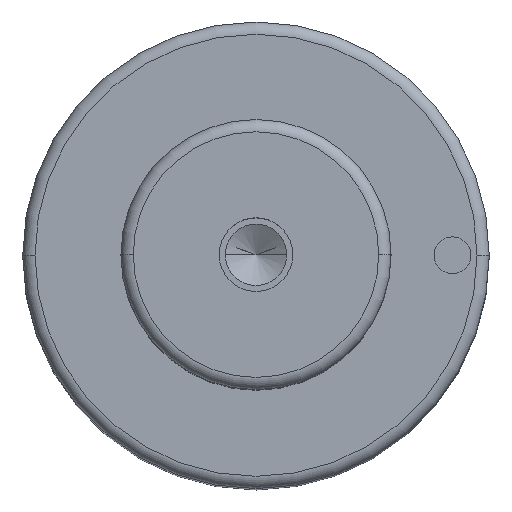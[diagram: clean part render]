
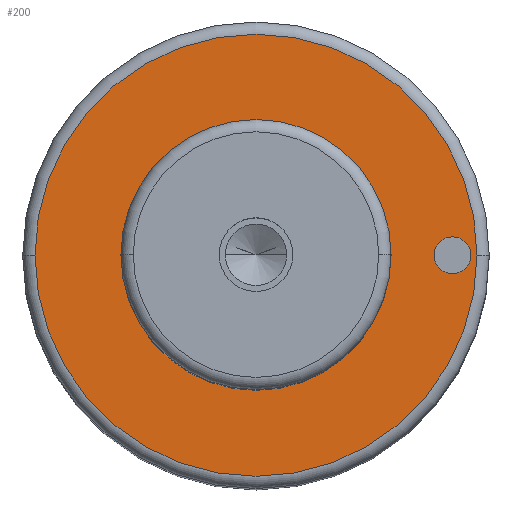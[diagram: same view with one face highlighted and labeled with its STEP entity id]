
A CAD part, top view. The second image highlights one B-rep face of the part: STEP entity #200.
In plain terms, the highlighted planar face has unit normal (0, 0, 1).
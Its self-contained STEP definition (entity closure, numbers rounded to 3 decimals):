
#99=PLANE('',#596);
#107=FACE_BOUND('',#265,.T.);
#108=FACE_BOUND('',#266,.T.);
#109=FACE_BOUND('',#267,.T.);
#200=ADVANCED_FACE('',(#107,#108,#109),#99,.T.);
#265=EDGE_LOOP('',(#359,#360));
#266=EDGE_LOOP('',(#361,#362));
#267=EDGE_LOOP('',(#363,#364));
#359=ORIENTED_EDGE('',*,*,#460,.F.);
#360=ORIENTED_EDGE('',*,*,#461,.F.);
#361=ORIENTED_EDGE('',*,*,#485,.F.);
#362=ORIENTED_EDGE('',*,*,#486,.F.);
#363=ORIENTED_EDGE('',*,*,#456,.T.);
#364=ORIENTED_EDGE('',*,*,#454,.T.);
#411=VERTEX_POINT('',#808);
#412=VERTEX_POINT('',#810);
#413=VERTEX_POINT('',#816);
#416=VERTEX_POINT('',#821);
#430=VERTEX_POINT('',#875);
#431=VERTEX_POINT('',#876);
#454=EDGE_CURVE('',#412,#411,#513,.T.);
#456=EDGE_CURVE('',#411,#412,#514,.T.);
#460=EDGE_CURVE('',#416,#413,#518,.T.);
#461=EDGE_CURVE('',#413,#416,#519,.T.);
#485=EDGE_CURVE('',#430,#431,#533,.T.);
#486=EDGE_CURVE('',#431,#430,#534,.T.);
#513=CIRCLE('',#558,11.);
#514=CIRCLE('',#560,11.);
#518=CIRCLE('',#565,18.);
#519=CIRCLE('',#567,18.);
#533=CIRCLE('',#594,1.5);
#534=CIRCLE('',#595,1.5);
#558=AXIS2_PLACEMENT_3D('',#809,#647,#648);
#560=AXIS2_PLACEMENT_3D('',#813,#652,#653);
#565=AXIS2_PLACEMENT_3D('',#822,#662,#663);
#567=AXIS2_PLACEMENT_3D('',#824,#666,#667);
#594=AXIS2_PLACEMENT_3D('',#874,#730,#731);
#595=AXIS2_PLACEMENT_3D('',#877,#732,#733);
#596=AXIS2_PLACEMENT_3D('',#878,#734,#735);
#647=DIRECTION('',(0.,0.,-1.));
#648=DIRECTION('',(0.,1.,0.));
#652=DIRECTION('',(0.,0.,-1.));
#653=DIRECTION('',(0.,-1.,0.));
#662=DIRECTION('',(0.,0.,-1.));
#663=DIRECTION('',(0.,1.,0.));
#666=DIRECTION('',(0.,0.,-1.));
#667=DIRECTION('',(0.,-1.,0.));
#730=DIRECTION('',(0.,0.,1.));
#731=DIRECTION('',(0.,1.,0.));
#732=DIRECTION('',(0.,0.,1.));
#733=DIRECTION('',(0.,-1.,0.));
#734=DIRECTION('',(0.,0.,1.));
#735=DIRECTION('',(0.,-1.,0.));
#808=CARTESIAN_POINT('',(-11.,0.,67.));
#809=CARTESIAN_POINT('',(0.,0.,67.));
#810=CARTESIAN_POINT('',(11.,0.,67.));
#813=CARTESIAN_POINT('',(0.,0.,67.));
#816=CARTESIAN_POINT('',(-18.,0.,67.));
#821=CARTESIAN_POINT('',(18.,0.,67.));
#822=CARTESIAN_POINT('',(0.,0.,67.));
#824=CARTESIAN_POINT('',(0.,0.,67.));
#874=CARTESIAN_POINT('',(16.,0.,67.));
#875=CARTESIAN_POINT('',(14.5,0.,67.));
#876=CARTESIAN_POINT('',(17.5,0.,67.));
#877=CARTESIAN_POINT('',(16.,0.,67.));
#878=CARTESIAN_POINT('',(0.,0.,67.));
